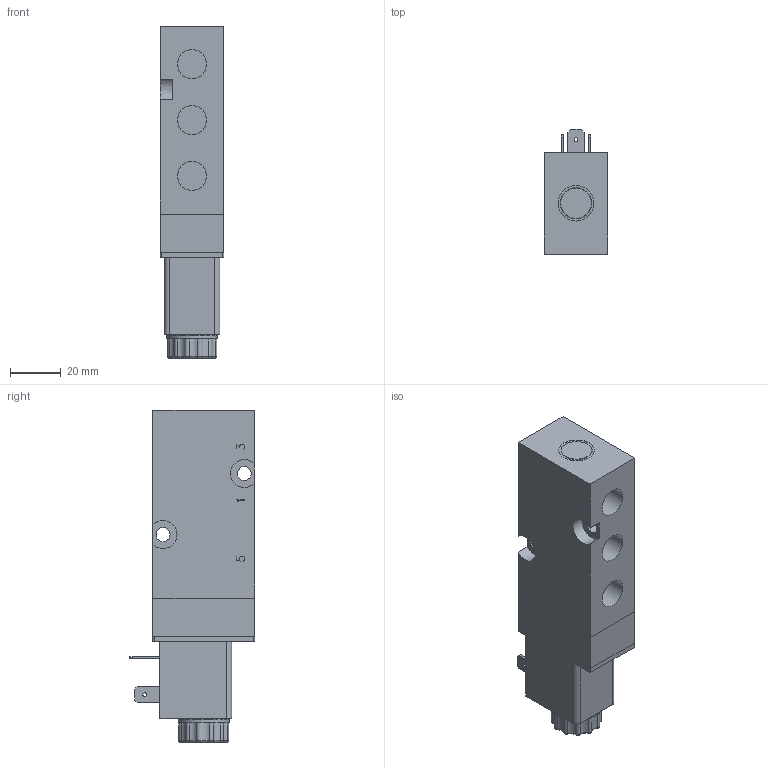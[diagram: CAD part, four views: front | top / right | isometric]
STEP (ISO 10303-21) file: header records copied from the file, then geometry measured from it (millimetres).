
FILE_DESCRIPTION (( 'STEP AP214' ), '1' );
FILE_NAME ('ICKN-55-510-HN-F42_Airtec.step', '2019-01-08T09:18:15', ( '' ), ( '' ), 'SwSTEP 2.0', 'SolidWorks 2010', '' );
FILE_SCHEMA (( 'AUTOMOTIVE_DESIGN' ));
Length unit declared in the file: millimetre
Products named in the file (3): Volumenkörper6; Volumenkörper1; ICKN-55-510-HN-F42_Airtec
Assembly tree (2 placements, depth 2):
  ICKN-55-510-HN-F42_Airtec
    Volumenkörper6
    Volumenkörper1
Bounding box: 25 x 49.2 x 130.6 mm (x, y, z)
Volume: 105912.2 mm3; surface area: 24657.4 mm2
Topology: 2 solids, 2 shells, 467 faces, 1201 edges, 775 vertices
Faces by surface type: plane 251, cylinder 88, cone 65, torus 49, bspline 14
Full cylindrical faces by diameter (mm): 1.5 x3, 2.459 x1, 5.1 x4, 5.5 x3, 7 x2, 7.5 x4, 8 x1, 8.15 x1, 9.04 x2, 9.1 x1, 11.445 x3, 12 x1, 14 x1, 15 x1, 16.6 x1, 20 x3
Entity records: 18816 total; most frequent: CARTESIAN_POINT 4123, ORIENTED_EDGE 2274, DIRECTION 2248, EDGE_CURVE 1137, AXIS2_PLACEMENT_3D 811, VERTEX_POINT 761, LINE 626, VECTOR 626
